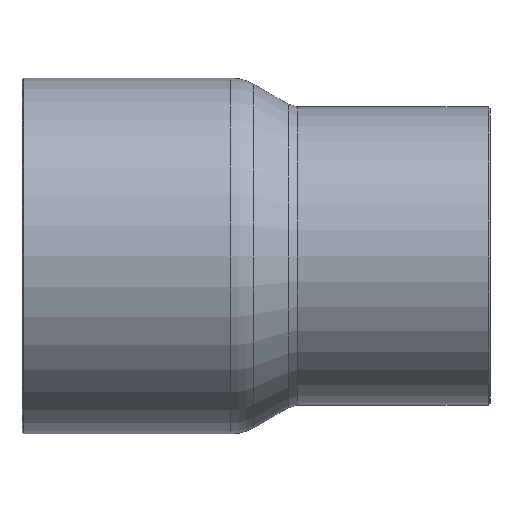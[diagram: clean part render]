
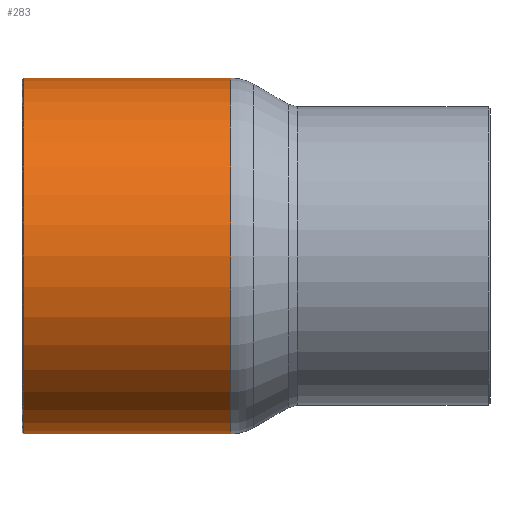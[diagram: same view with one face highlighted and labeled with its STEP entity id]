
A CAD part, front view. The second image highlights one B-rep face of the part: STEP entity #283.
In plain terms, the highlighted cylindrical face has radius 19.852 mm (diameter 39.705 mm), a full revolution.
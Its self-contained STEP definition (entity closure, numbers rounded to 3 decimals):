
#252=CARTESIAN_POINT('',(-32.8,19.852,0.));
#253=VERTEX_POINT('',#252);
#254=CARTESIAN_POINT('',(-32.8,0.0,0.0));
#255=DIRECTION('',(-1.0,0.0,0.0));
#256=DIRECTION('',(0.0,-1.0,0.0));
#257=AXIS2_PLACEMENT_3D('',#254,#255,#256);
#258=CIRCLE('',#257,19.852);
#259=EDGE_CURVE('',#253,#253,#258,.T.);
#264=CARTESIAN_POINT('',(-21.35,0.0,0.0));
#265=DIRECTION('',(1.0,0.0,0.0));
#266=DIRECTION('',(0.0,1.0,0.0));
#267=AXIS2_PLACEMENT_3D('',#264,#265,#266);
#268=CYLINDRICAL_SURFACE('',#267,19.852);
#269=CARTESIAN_POINT('',(-9.7,19.852,0.0));
#270=VERTEX_POINT('',#269);
#271=CARTESIAN_POINT('',(-9.7,0.0,0.0));
#272=DIRECTION('',(1.0,0.0,0.0));
#273=DIRECTION('',(0.0,1.0,0.0));
#274=AXIS2_PLACEMENT_3D('',#271,#272,#273);
#275=CIRCLE('',#274,19.852);
#276=EDGE_CURVE('',#270,#270,#275,.T.);
#277=ORIENTED_EDGE('',*,*,#276,.F.);
#278=EDGE_LOOP('',(#277));
#279=FACE_OUTER_BOUND('',#278,.T.);
#280=ORIENTED_EDGE('',*,*,#259,.F.);
#281=EDGE_LOOP('',(#280));
#282=FACE_BOUND('',#281,.T.);
#283=ADVANCED_FACE('',(#279,#282),#268,.T.);
